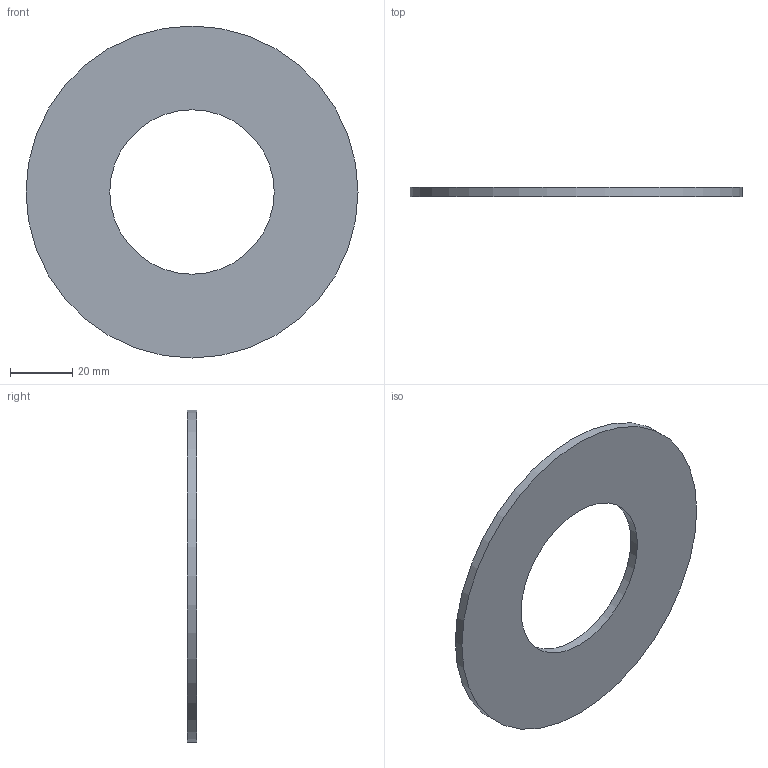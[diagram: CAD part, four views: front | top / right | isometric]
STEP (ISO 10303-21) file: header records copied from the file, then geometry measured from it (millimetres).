
FILE_DESCRIPTION(/* description */ ('Unknown'),/* implementation_level */ '2;1');
FILE_NAME(/* name */ 'GUA.063H',/* time_stamp */ '2021-04-01T15:00:11+02:00',/* author */ ('Unknown'),/* organization */ ('Unknown'),/* preprocessor_version */ 'ST-DEVELOPER v16.7',/* originating_system */ 'Solid Edge',/* authorisation */ 'Unknown');
FILE_SCHEMA (('AUTOMOTIVE_DESIGN {1 0 10303 214 3 1 1}'));
Length unit declared in the file: millimetre
Products named in the file (1): GUA.063H
Bounding box: 107 x 3 x 107 mm (x, y, z)
Volume: 20357.5 mm3; surface area: 15079.6 mm2
Topology: 1 solids, 1 shells, 4 faces, 6 edges, 4 vertices
Faces by surface type: cylinder 2, plane 2
Full cylindrical faces by diameter (mm): 53 x1, 107 x1
Entity records: 118 total; most frequent: DIRECTION 18, CARTESIAN_POINT 13, AXIS2_PLACEMENT_3D 9, ORIENTED_EDGE 8, EDGE_LOOP 8, FACE_BOUND 8, EDGE_CURVE 4, VERTEX_POINT 4
